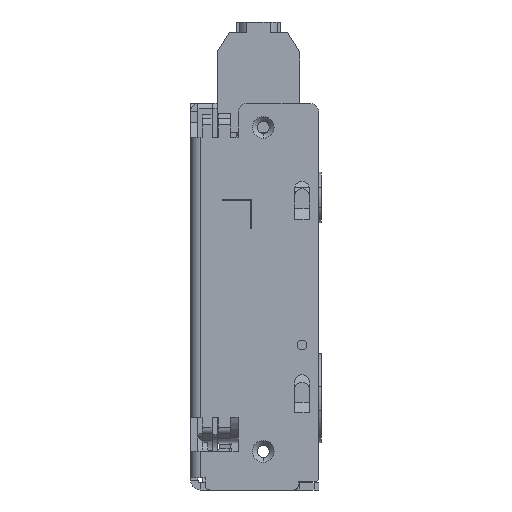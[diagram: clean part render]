
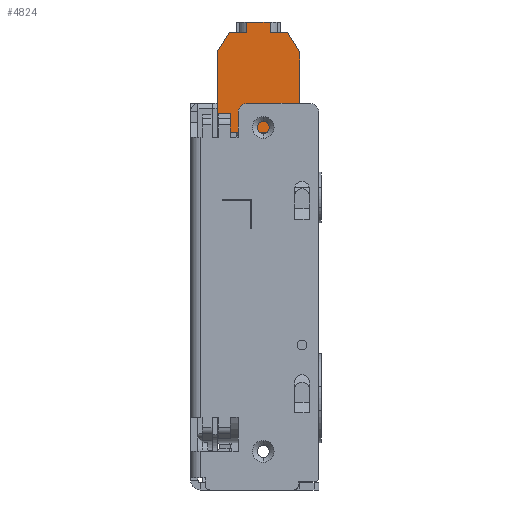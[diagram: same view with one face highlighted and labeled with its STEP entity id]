
A CAD part, front view. The second image highlights one B-rep face of the part: STEP entity #4824.
In plain terms, the highlighted planar face has unit normal (0, -1, 0).
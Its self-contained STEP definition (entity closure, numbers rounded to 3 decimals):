
#1566 = EDGE_CURVE ( 'NONE', #73469, #25026, #48691, .T. ) ;
#4824 = ADVANCED_FACE ( 'NONE', ( #27283 ), #18884, .T. ) ;
#5547 = ORIENTED_EDGE ( 'NONE', *, *, #84633, .T. ) ;
#7885 = CARTESIAN_POINT ( 'NONE',  ( 5.5, 11.95, 0. ) ) ;
#8119 = VECTOR ( 'NONE', #36485, 1000. ) ;
#8482 = DIRECTION ( 'NONE',  ( 0., 0., 1. ) ) ;
#8528 = CARTESIAN_POINT ( 'NONE',  ( 22., 11.95, -6. ) ) ;
#8881 = CARTESIAN_POINT ( 'NONE',  ( 22., 11.95, 16.8 ) ) ;
#8967 = VERTEX_POINT ( 'NONE', #98288 ) ;
#9045 = LINE ( 'NONE', #99469, #65796 ) ;
#9985 = CARTESIAN_POINT ( 'NONE',  ( 5.5, 11.95, -6. ) ) ;
#11596 = VERTEX_POINT ( 'NONE', #75128 ) ;
#11864 = EDGE_CURVE ( 'NONE', #50103, #25026, #93793, .T. ) ;
#11902 = CARTESIAN_POINT ( 'NONE',  ( 11.58, 11.95, 16.8 ) ) ;
#12039 = ORIENTED_EDGE ( 'NONE', *, *, #74259, .F. ) ;
#15719 = ORIENTED_EDGE ( 'NONE', *, *, #23830, .T. ) ;
#17679 = CARTESIAN_POINT ( 'NONE',  ( 16.42, 11.95, 14.6 ) ) ;
#18834 = CARTESIAN_POINT ( 'NONE',  ( 22.5, 11.95, -6. ) ) ;
#18884 = PLANE ( 'NONE',  #88357 ) ;
#19231 = LINE ( 'NONE', #8881, #99295 ) ;
#23830 = EDGE_CURVE ( 'NONE', #42914, #28273, #67934, .T. ) ;
#24262 = ORIENTED_EDGE ( 'NONE', *, *, #11864, .F. ) ;
#24415 = ORIENTED_EDGE ( 'NONE', *, *, #98958, .F. ) ;
#25026 = VERTEX_POINT ( 'NONE', #9985 ) ;
#25637 = ORIENTED_EDGE ( 'NONE', *, *, #85870, .T. ) ;
#27283 = FACE_OUTER_BOUND ( 'NONE', #100664, .T. ) ;
#28124 = DIRECTION ( 'NONE',  ( 0., 0., -1. ) ) ;
#28273 = VERTEX_POINT ( 'NONE', #61185 ) ;
#29155 = LINE ( 'NONE', #18834, #52532 ) ;
#30720 = VERTEX_POINT ( 'NONE', #17679 ) ;
#32759 = VECTOR ( 'NONE', #51605, 1000. ) ;
#35784 = VECTOR ( 'NONE', #70959, 1000. ) ;
#36206 = CARTESIAN_POINT ( 'NONE',  ( 11.58, 11.95, 14.6 ) ) ;
#36485 = DIRECTION ( 'NONE',  ( 1., 0., 0. ) ) ;
#37112 = ORIENTED_EDGE ( 'NONE', *, *, #85062, .T. ) ;
#38381 = CARTESIAN_POINT ( 'NONE',  ( 5.5, 11.95, -72. ) ) ;
#39277 = CARTESIAN_POINT ( 'NONE',  ( 22.5, 11.95, -6. ) ) ;
#42914 = VERTEX_POINT ( 'NONE', #52282 ) ;
#43989 = ORIENTED_EDGE ( 'NONE', *, *, #57640, .F. ) ;
#46738 = CARTESIAN_POINT ( 'NONE',  ( 22., 11.95, 14.6 ) ) ;
#47207 = DIRECTION ( 'NONE',  ( -0.53, 0., 0.848 ) ) ;
#48155 = VECTOR ( 'NONE', #28124, 1000. ) ;
#48691 = LINE ( 'NONE', #38381, #48155 ) ;
#50103 = VERTEX_POINT ( 'NONE', #39277 ) ;
#51605 = DIRECTION ( 'NONE',  ( 0., 0., 1. ) ) ;
#52282 = CARTESIAN_POINT ( 'NONE',  ( 22.5, 11.95, 10.6 ) ) ;
#52532 = VECTOR ( 'NONE', #8482, 1000. ) ;
#53412 = ORIENTED_EDGE ( 'NONE', *, *, #73633, .T. ) ;
#55518 = VERTEX_POINT ( 'NONE', #11902 ) ;
#57093 = LINE ( 'NONE', #46738, #8119 ) ;
#57586 = CARTESIAN_POINT ( 'NONE',  ( 22.5, 11.95, 10.6 ) ) ;
#57640 = EDGE_CURVE ( 'NONE', #30720, #28273, #57093, .T. ) ;
#60243 = DIRECTION ( 'NONE',  ( 0., 0., -1. ) ) ;
#61185 = CARTESIAN_POINT ( 'NONE',  ( 20., 11.95, 14.6 ) ) ;
#61991 = CARTESIAN_POINT ( 'NONE',  ( 11.58, 11.95, -6. ) ) ;
#65796 = VECTOR ( 'NONE', #89148, 1000. ) ;
#67405 = ORIENTED_EDGE ( 'NONE', *, *, #72395, .T. ) ;
#67934 = LINE ( 'NONE', #57586, #78328 ) ;
#69035 = VERTEX_POINT ( 'NONE', #78205 ) ;
#69721 = VERTEX_POINT ( 'NONE', #36206 ) ;
#70484 = CARTESIAN_POINT ( 'NONE',  ( 5.5, 11.95, -6. ) ) ;
#70959 = DIRECTION ( 'NONE',  ( -1., 0., 0. ) ) ;
#72280 = LINE ( 'NONE', #61991, #32759 ) ;
#72395 = EDGE_CURVE ( 'NONE', #50103, #42914, #29155, .T. ) ;
#73170 = DIRECTION ( 'NONE',  ( -1., 0., 0. ) ) ;
#73469 = VERTEX_POINT ( 'NONE', #7885 ) ;
#73633 = EDGE_CURVE ( 'NONE', #69721, #69035, #91608, .T. ) ;
#74259 = EDGE_CURVE ( 'NONE', #55518, #8967, #19231, .T. ) ;
#75128 = CARTESIAN_POINT ( 'NONE',  ( 5.5, 11.95, 10.6 ) ) ;
#75796 = VECTOR ( 'NONE', #60243, 1000. ) ;
#76719 = DIRECTION ( 'NONE',  ( -0.53, 0., -0.848 ) ) ;
#77722 = VECTOR ( 'NONE', #73170, 1000. ) ;
#78205 = CARTESIAN_POINT ( 'NONE',  ( 8., 11.95, 14.6 ) ) ;
#78328 = VECTOR ( 'NONE', #47207, 1000. ) ;
#80833 = LINE ( 'NONE', #70484, #75796 ) ;
#81315 = CARTESIAN_POINT ( 'NONE',  ( 11.58, 11.95, 14.6 ) ) ;
#83494 = CARTESIAN_POINT ( 'NONE',  ( 14., 11.95, -6. ) ) ;
#84633 = EDGE_CURVE ( 'NONE', #30720, #8967, #9045, .T. ) ;
#85062 = EDGE_CURVE ( 'NONE', #69035, #11596, #97320, .T. ) ;
#85870 = EDGE_CURVE ( 'NONE', #11596, #73469, #80833, .T. ) ;
#86961 = CARTESIAN_POINT ( 'NONE',  ( 5.5, 11.95, 10.6 ) ) ;
#88357 = AXIS2_PLACEMENT_3D ( 'NONE', #8528, #98952, #88626 ) ;
#88626 = DIRECTION ( 'NONE',  ( 0., 0., 1. ) ) ;
#89148 = DIRECTION ( 'NONE',  ( 0., 0., 1. ) ) ;
#90711 = ORIENTED_EDGE ( 'NONE', *, *, #1566, .T. ) ;
#91608 = LINE ( 'NONE', #81315, #35784 ) ;
#92531 = VECTOR ( 'NONE', #76719, 1000. ) ;
#93793 = LINE ( 'NONE', #83494, #77722 ) ;
#97320 = LINE ( 'NONE', #86961, #92531 ) ;
#98288 = CARTESIAN_POINT ( 'NONE',  ( 16.42, 11.95, 16.8 ) ) ;
#98952 = DIRECTION ( 'NONE',  ( 0., -1., 0. ) ) ;
#98958 = EDGE_CURVE ( 'NONE', #69721, #55518, #72280, .T. ) ;
#99295 = VECTOR ( 'NONE', #99298, 1000. ) ;
#99298 = DIRECTION ( 'NONE',  ( 1., 0., 0. ) ) ;
#99469 = CARTESIAN_POINT ( 'NONE',  ( 16.42, 11.95, 14.6 ) ) ;
#100664 = EDGE_LOOP ( 'NONE', ( #24415, #53412, #37112, #25637, #90711, #24262, #67405, #15719, #43989, #5547, #12039 ) ) ;
